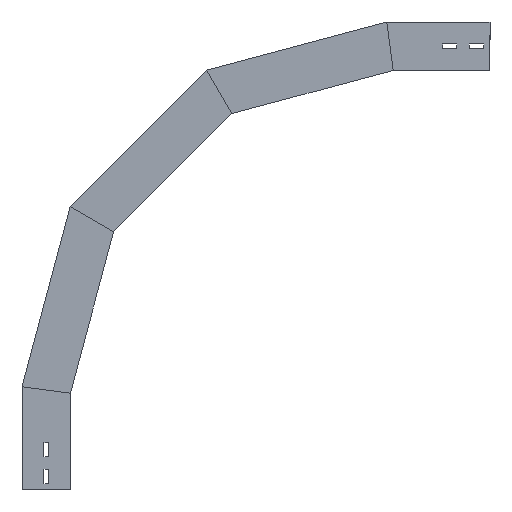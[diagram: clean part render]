
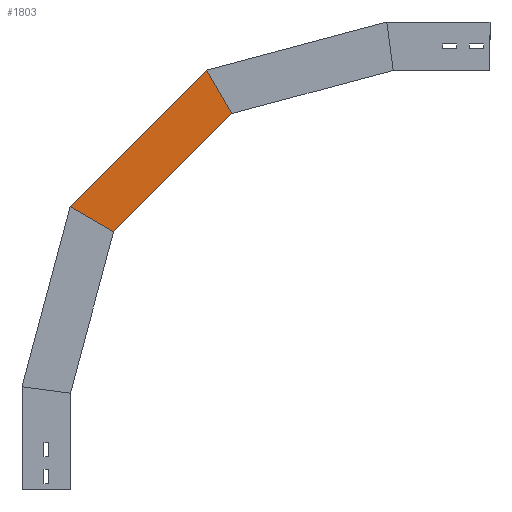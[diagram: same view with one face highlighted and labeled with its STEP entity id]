
A CAD part, left-side view. The second image highlights one B-rep face of the part: STEP entity #1803.
In plain terms, the highlighted planar face has unit normal (-1, 0, 0) as drawn and (1, 0, 0) by its records, which use the part's own axes.
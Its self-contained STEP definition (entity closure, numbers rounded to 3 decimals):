
#31 = CARTESIAN_POINT ( 'NONE',  ( 0., -127.544, 365.239 ) ) ;
#139 = LINE ( 'NONE', #585, #1370 ) ;
#253 = VECTOR ( 'NONE', #575, 1000. ) ;
#255 = CARTESIAN_POINT ( 'NONE',  ( 0., -51.332, 384.473 ) ) ;
#423 = DIRECTION ( 'NONE',  ( 0., -0.707, 0.707 ) ) ;
#437 = AXIS2_PLACEMENT_3D ( 'NONE', #255, #582, #1610 ) ;
#443 = VECTOR ( 'NONE', #1483, 1000. ) ;
#473 = ORIENTED_EDGE ( 'NONE', *, *, #929, .F. ) ;
#483 = ORIENTED_EDGE ( 'NONE', *, *, #1395, .T. ) ;
#575 = DIRECTION ( 'NONE',  ( 0., -0.5, -0.866 ) ) ;
#582 = DIRECTION ( 'NONE',  ( 1., 0., 0. ) ) ;
#585 = CARTESIAN_POINT ( 'NONE',  ( 0., 1.701, 437.506 ) ) ;
#591 = VECTOR ( 'NONE', #1622, 1000. ) ;
#622 = VERTEX_POINT ( 'NONE', #1467 ) ;
#623 = CARTESIAN_POINT ( 'NONE',  ( 0., -250.175, 583.315 ) ) ;
#660 = ORIENTED_EDGE ( 'NONE', *, *, #1772, .T. ) ;
#730 = PLANE ( 'NONE',  #437 ) ;
#874 = VERTEX_POINT ( 'NONE', #623 ) ;
#924 = VERTEX_POINT ( 'NONE', #1340 ) ;
#929 = EDGE_CURVE ( 'NONE', #622, #924, #1792, .T. ) ;
#1027 = CARTESIAN_POINT ( 'NONE',  ( 0., -51.332, 384.473 ) ) ;
#1166 = LINE ( 'NONE', #1027, #443 ) ;
#1310 = EDGE_CURVE ( 'NONE', #924, #874, #1166, .T. ) ;
#1340 = CARTESIAN_POINT ( 'NONE',  ( 0., -67.034, 400.175 ) ) ;
#1370 = VECTOR ( 'NONE', #423, 1000. ) ;
#1395 = EDGE_CURVE ( 'NONE', #622, #1579, #139, .T. ) ;
#1467 = CARTESIAN_POINT ( 'NONE',  ( 0., 0.209, 438.998 ) ) ;
#1478 = EDGE_LOOP ( 'NONE', ( #483, #660, #1515, #473 ) ) ;
#1483 = DIRECTION ( 'NONE',  ( 0., -0.707, 0.707 ) ) ;
#1515 = ORIENTED_EDGE ( 'NONE', *, *, #1310, .F. ) ;
#1572 = CARTESIAN_POINT ( 'NONE',  ( 0., -211.352, 650.559 ) ) ;
#1579 = VERTEX_POINT ( 'NONE', #1572 ) ;
#1583 = LINE ( 'NONE', #1886, #253 ) ;
#1610 = DIRECTION ( 'NONE',  ( 0., 0., -1. ) ) ;
#1622 = DIRECTION ( 'NONE',  ( 0., -0.866, -0.5 ) ) ;
#1772 = EDGE_CURVE ( 'NONE', #1579, #874, #1583, .T. ) ;
#1792 = LINE ( 'NONE', #31, #591 ) ;
#1803 = ADVANCED_FACE ( 'NONE', ( #1875 ), #730, .T. ) ;
#1875 = FACE_OUTER_BOUND ( 'NONE', #1478, .T. ) ;
#1886 = CARTESIAN_POINT ( 'NONE',  ( 0., -286.565, 520.285 ) ) ;
